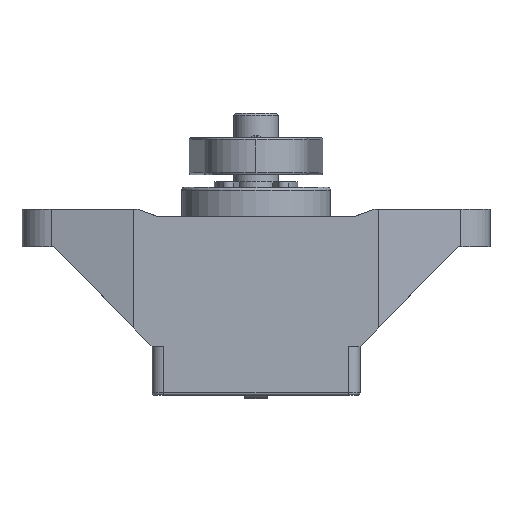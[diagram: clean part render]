
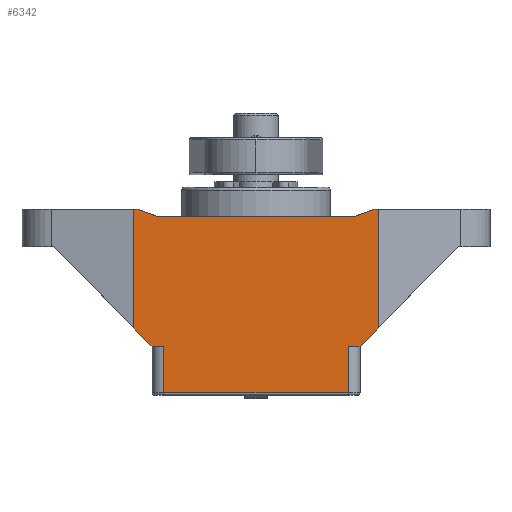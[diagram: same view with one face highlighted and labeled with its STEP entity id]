
A CAD part, front view. The second image highlights one B-rep face of the part: STEP entity #6342.
In plain terms, the highlighted planar face has unit normal (0, -1, 0).
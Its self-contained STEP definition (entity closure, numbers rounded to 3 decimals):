
#194 = EDGE_CURVE ( 'NONE', #7034, #5313, #12253, .T. ) ;
#382 = ORIENTED_EDGE ( 'NONE', *, *, #13160, .F. ) ;
#688 = CARTESIAN_POINT ( 'NONE',  ( 12.4, -13., -19.237 ) ) ;
#1160 = DIRECTION ( 'NONE',  ( 1., 0., 0. ) ) ;
#1716 = VERTEX_POINT ( 'NONE', #21224 ) ;
#2077 = LINE ( 'NONE', #10377, #18272 ) ;
#2346 = CARTESIAN_POINT ( 'NONE',  ( -13.136, -13., -4. ) ) ;
#2782 = LINE ( 'NONE', #11086, #8769 ) ;
#2828 = VERTEX_POINT ( 'NONE', #9805 ) ;
#2965 = VECTOR ( 'NONE', #13057, 1000. ) ;
#3406 = ORIENTED_EDGE ( 'NONE', *, *, #7129, .F. ) ;
#3551 = CARTESIAN_POINT ( 'NONE',  ( 14., -13., -21.5 ) ) ;
#3773 = PLANE ( 'NONE',  #26496 ) ;
#3924 = VECTOR ( 'NONE', #22471, 1000. ) ;
#4028 = DIRECTION ( 'NONE',  ( 0., 0., -1. ) ) ;
#4055 = FACE_OUTER_BOUND ( 'NONE', #12439, .T. ) ;
#4156 = ORIENTED_EDGE ( 'NONE', *, *, #17288, .T. ) ;
#4492 = ORIENTED_EDGE ( 'NONE', *, *, #22800, .T. ) ;
#4767 = DIRECTION ( 'NONE',  ( 0.94, 0., 0.342 ) ) ;
#5077 = VECTOR ( 'NONE', #1160, 1000. ) ;
#5313 = VERTEX_POINT ( 'NONE', #22535 ) ;
#5322 = VECTOR ( 'NONE', #21488, 1000. ) ;
#5710 = CARTESIAN_POINT ( 'NONE',  ( 14., -13., -21.5 ) ) ;
#6139 = LINE ( 'NONE', #14665, #20210 ) ;
#6329 = ORIENTED_EDGE ( 'NONE', *, *, #7782, .F. ) ;
#6342 = ADVANCED_FACE ( 'NONE', ( #4055 ), #3773, .T. ) ;
#7034 = VERTEX_POINT ( 'NONE', #12019 ) ;
#7129 = EDGE_CURVE ( 'NONE', #26831, #2828, #2077, .T. ) ;
#7478 = EDGE_CURVE ( 'NONE', #12872, #8565, #18356, .T. ) ;
#7782 = EDGE_CURVE ( 'NONE', #16785, #18673, #24312, .T. ) ;
#8002 = CARTESIAN_POINT ( 'NONE',  ( -16.5, -13., -8. ) ) ;
#8104 = LINE ( 'NONE', #20336, #19201 ) ;
#8552 = EDGE_CURVE ( 'NONE', #1716, #23856, #8104, .T. ) ;
#8565 = VERTEX_POINT ( 'NONE', #14345 ) ;
#8576 = LINE ( 'NONE', #688, #2965 ) ;
#8769 = VECTOR ( 'NONE', #19362, 1000. ) ;
#9307 = LINE ( 'NONE', #9984, #3924 ) ;
#9325 = EDGE_CURVE ( 'NONE', #24851, #12872, #14957, .T. ) ;
#9692 = ORIENTED_EDGE ( 'NONE', *, *, #16121, .F. ) ;
#9805 = CARTESIAN_POINT ( 'NONE',  ( -16.5, -13., -18.943 ) ) ;
#9923 = CARTESIAN_POINT ( 'NONE',  ( 16.5, -13., -18.943 ) ) ;
#9984 = CARTESIAN_POINT ( 'NONE',  ( 16.5, -13., -8. ) ) ;
#10117 = DIRECTION ( 'NONE',  ( -0.699, 0., 0.715 ) ) ;
#10182 = CARTESIAN_POINT ( 'NONE',  ( -14., -13., -28. ) ) ;
#10220 = CARTESIAN_POINT ( 'NONE',  ( -14., -13., -3. ) ) ;
#10377 = CARTESIAN_POINT ( 'NONE',  ( -14., -13., -21.5 ) ) ;
#10438 = LINE ( 'NONE', #8002, #22537 ) ;
#10670 = DIRECTION ( 'NONE',  ( -1., 0., 0. ) ) ;
#11044 = VERTEX_POINT ( 'NONE', #2346 ) ;
#11086 = CARTESIAN_POINT ( 'NONE',  ( -15.883, -13., -3. ) ) ;
#11255 = CARTESIAN_POINT ( 'NONE',  ( -12.4, -13., -27.7 ) ) ;
#11994 = ORIENTED_EDGE ( 'NONE', *, *, #194, .F. ) ;
#12019 = CARTESIAN_POINT ( 'NONE',  ( -16.5, -13., -3. ) ) ;
#12253 = LINE ( 'NONE', #10220, #5322 ) ;
#12264 = CARTESIAN_POINT ( 'NONE',  ( 13.136, -13., -4. ) ) ;
#12439 = EDGE_LOOP ( 'NONE', ( #16498, #4492, #17422, #9692, #6329, #4156, #19553, #17157, #16971, #382, #11994, #16964, #3406, #18485 ) ) ;
#12487 = DIRECTION ( 'NONE',  ( -1., 0., 0. ) ) ;
#12872 = VERTEX_POINT ( 'NONE', #17617 ) ;
#13057 = DIRECTION ( 'NONE',  ( 0., 0., -1. ) ) ;
#13160 = EDGE_CURVE ( 'NONE', #5313, #11044, #2782, .T. ) ;
#13974 = EDGE_CURVE ( 'NONE', #2828, #7034, #10438, .T. ) ;
#14345 = CARTESIAN_POINT ( 'NONE',  ( 16.5, -13., -3. ) ) ;
#14380 = CARTESIAN_POINT ( 'NONE',  ( -14., -13., -21.5 ) ) ;
#14440 = VECTOR ( 'NONE', #4767, 1000. ) ;
#14544 = CARTESIAN_POINT ( 'NONE',  ( 15.883, -13., -3. ) ) ;
#14665 = CARTESIAN_POINT ( 'NONE',  ( -8.9, -13., -4. ) ) ;
#14914 = LINE ( 'NONE', #14380, #22479 ) ;
#14957 = LINE ( 'NONE', #14544, #14440 ) ;
#15000 = VERTEX_POINT ( 'NONE', #24186 ) ;
#16121 = EDGE_CURVE ( 'NONE', #18673, #24121, #19215, .T. ) ;
#16498 = ORIENTED_EDGE ( 'NONE', *, *, #8552, .T. ) ;
#16533 = VECTOR ( 'NONE', #23859, 1000. ) ;
#16785 = VERTEX_POINT ( 'NONE', #9923 ) ;
#16964 = ORIENTED_EDGE ( 'NONE', *, *, #13974, .F. ) ;
#16971 = ORIENTED_EDGE ( 'NONE', *, *, #20921, .F. ) ;
#17157 = ORIENTED_EDGE ( 'NONE', *, *, #9325, .F. ) ;
#17288 = EDGE_CURVE ( 'NONE', #16785, #8565, #9307, .T. ) ;
#17422 = ORIENTED_EDGE ( 'NONE', *, *, #24893, .F. ) ;
#17617 = CARTESIAN_POINT ( 'NONE',  ( 15.883, -13., -3. ) ) ;
#18272 = VECTOR ( 'NONE', #10117, 1000. ) ;
#18356 = LINE ( 'NONE', #25279, #24789 ) ;
#18485 = ORIENTED_EDGE ( 'NONE', *, *, #19218, .F. ) ;
#18587 = DIRECTION ( 'NONE',  ( 0., 0., -1. ) ) ;
#18673 = VERTEX_POINT ( 'NONE', #3551 ) ;
#18896 = DIRECTION ( 'NONE',  ( 1., 0., 0. ) ) ;
#19201 = VECTOR ( 'NONE', #4028, 1000. ) ;
#19215 = LINE ( 'NONE', #19481, #21703 ) ;
#19218 = EDGE_CURVE ( 'NONE', #1716, #26831, #14914, .T. ) ;
#19362 = DIRECTION ( 'NONE',  ( 0.94, 0., -0.342 ) ) ;
#19481 = CARTESIAN_POINT ( 'NONE',  ( 14., -13., -21.5 ) ) ;
#19553 = ORIENTED_EDGE ( 'NONE', *, *, #7478, .F. ) ;
#19762 = CARTESIAN_POINT ( 'NONE',  ( -14., -13., -21.5 ) ) ;
#20044 = LINE ( 'NONE', #21686, #5077 ) ;
#20210 = VECTOR ( 'NONE', #20666, 1000. ) ;
#20336 = CARTESIAN_POINT ( 'NONE',  ( -12.4, -13., -19.237 ) ) ;
#20666 = DIRECTION ( 'NONE',  ( 1., 0., 0. ) ) ;
#20921 = EDGE_CURVE ( 'NONE', #11044, #24851, #6139, .T. ) ;
#21224 = CARTESIAN_POINT ( 'NONE',  ( -12.4, -13., -21.5 ) ) ;
#21488 = DIRECTION ( 'NONE',  ( 1., 0., 0. ) ) ;
#21686 = CARTESIAN_POINT ( 'NONE',  ( 12.4, -13., -27.7 ) ) ;
#21703 = VECTOR ( 'NONE', #10670, 1000. ) ;
#22471 = DIRECTION ( 'NONE',  ( 0., 0., 1. ) ) ;
#22479 = VECTOR ( 'NONE', #12487, 1000. ) ;
#22535 = CARTESIAN_POINT ( 'NONE',  ( -15.883, -13., -3. ) ) ;
#22537 = VECTOR ( 'NONE', #25096, 1000. ) ;
#22675 = DIRECTION ( 'NONE',  ( 0., -1., 0. ) ) ;
#22800 = EDGE_CURVE ( 'NONE', #23856, #15000, #20044, .T. ) ;
#23856 = VERTEX_POINT ( 'NONE', #11255 ) ;
#23859 = DIRECTION ( 'NONE',  ( -0.699, 0., -0.715 ) ) ;
#24121 = VERTEX_POINT ( 'NONE', #25222 ) ;
#24186 = CARTESIAN_POINT ( 'NONE',  ( 12.4, -13., -27.7 ) ) ;
#24312 = LINE ( 'NONE', #5710, #16533 ) ;
#24789 = VECTOR ( 'NONE', #18896, 1000. ) ;
#24851 = VERTEX_POINT ( 'NONE', #12264 ) ;
#24893 = EDGE_CURVE ( 'NONE', #24121, #15000, #8576, .T. ) ;
#25096 = DIRECTION ( 'NONE',  ( 0., 0., 1. ) ) ;
#25222 = CARTESIAN_POINT ( 'NONE',  ( 12.4, -13., -21.5 ) ) ;
#25279 = CARTESIAN_POINT ( 'NONE',  ( 14., -13., -3. ) ) ;
#26496 = AXIS2_PLACEMENT_3D ( 'NONE', #10182, #22675, #18587 ) ;
#26831 = VERTEX_POINT ( 'NONE', #19762 ) ;
